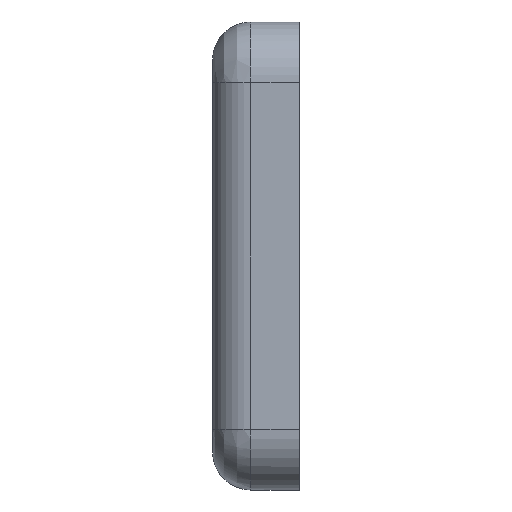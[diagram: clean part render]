
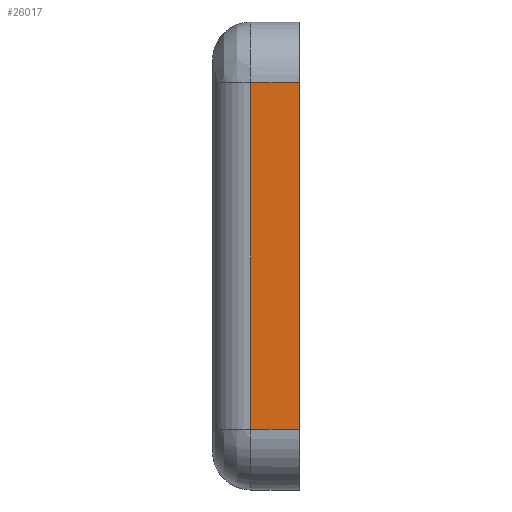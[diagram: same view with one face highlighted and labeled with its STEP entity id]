
A CAD part, left-side view. The second image highlights one B-rep face of the part: STEP entity #26017.
In plain terms, the highlighted planar face has unit normal (-1, 0, 0).
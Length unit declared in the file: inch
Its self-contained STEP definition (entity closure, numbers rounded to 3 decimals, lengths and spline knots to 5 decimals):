
#4833 = FACE_OUTER_BOUND ( 'NONE', #66571, .T. ) ;
#7391 = CARTESIAN_POINT ( 'NONE',  ( -8.38402, 1.27886, 4.54779 ) ) ;
#8065 = CARTESIAN_POINT ( 'NONE',  ( -8.38402, 0., -4.54779 ) ) ;
#10553 = VERTEX_POINT ( 'NONE', #8065 ) ;
#12274 = VERTEX_POINT ( 'NONE', #77947 ) ;
#14152 = ORIENTED_EDGE ( 'NONE', *, *, #56087, .T. ) ;
#17827 = CARTESIAN_POINT ( 'NONE',  ( -8.38402, 23.05557, 4.54779 ) ) ;
#18704 = LINE ( 'NONE', #17827, #49195 ) ;
#19123 = VERTEX_POINT ( 'NONE', #62516 ) ;
#19476 = VECTOR ( 'NONE', #27518, 39.37008 ) ;
#21606 = PLANE ( 'NONE',  #32415 ) ;
#21925 = ORIENTED_EDGE ( 'NONE', *, *, #49051, .F. ) ;
#25765 = CARTESIAN_POINT ( 'NONE',  ( -8.38402, 23.05557, -4.54779 ) ) ;
#26017 = ADVANCED_FACE ( 'NONE', ( #4833 ), #21606, .T. ) ;
#27518 = DIRECTION ( 'NONE',  ( 0., 0., -1. ) ) ;
#27727 = ORIENTED_EDGE ( 'NONE', *, *, #64124, .T. ) ;
#32415 = AXIS2_PLACEMENT_3D ( 'NONE', #33908, #34421, #70575 ) ;
#32810 = VECTOR ( 'NONE', #73953, 39.37008 ) ;
#33778 = LINE ( 'NONE', #33945, #19476 ) ;
#33908 = CARTESIAN_POINT ( 'NONE',  ( -8.38402, 23.05557, -4.54779 ) ) ;
#33945 = CARTESIAN_POINT ( 'NONE',  ( -8.38402, 0., -4.54779 ) ) ;
#34421 = DIRECTION ( 'NONE',  ( -1., 0., 0. ) ) ;
#34756 = ORIENTED_EDGE ( 'NONE', *, *, #71834, .F. ) ;
#39964 = LINE ( 'NONE', #64919, #59963 ) ;
#46813 = DIRECTION ( 'NONE',  ( 0., 0., -1. ) ) ;
#49051 = EDGE_CURVE ( 'NONE', #56100, #19123, #18704, .T. ) ;
#49195 = VECTOR ( 'NONE', #60422, 39.37008 ) ;
#56087 = EDGE_CURVE ( 'NONE', #12274, #10553, #65143, .T. ) ;
#56100 = VERTEX_POINT ( 'NONE', #7391 ) ;
#59963 = VECTOR ( 'NONE', #46813, 39.37008 ) ;
#60422 = DIRECTION ( 'NONE',  ( 0., -1., 0. ) ) ;
#62516 = CARTESIAN_POINT ( 'NONE',  ( -8.38402, 0., 4.54779 ) ) ;
#64124 = EDGE_CURVE ( 'NONE', #56100, #12274, #39964, .T. ) ;
#64919 = CARTESIAN_POINT ( 'NONE',  ( -8.38402, 1.27886, -4.54779 ) ) ;
#65143 = LINE ( 'NONE', #25765, #32810 ) ;
#66571 = EDGE_LOOP ( 'NONE', ( #21925, #27727, #14152, #34756 ) ) ;
#70575 = DIRECTION ( 'NONE',  ( 0., 0., 1. ) ) ;
#71834 = EDGE_CURVE ( 'NONE', #19123, #10553, #33778, .T. ) ;
#73953 = DIRECTION ( 'NONE',  ( 0., -1., 0. ) ) ;
#77947 = CARTESIAN_POINT ( 'NONE',  ( -8.38402, 1.27886, -4.54779 ) ) ;
